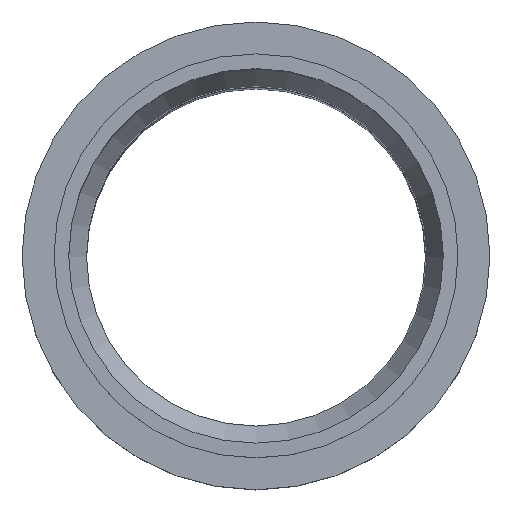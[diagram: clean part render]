
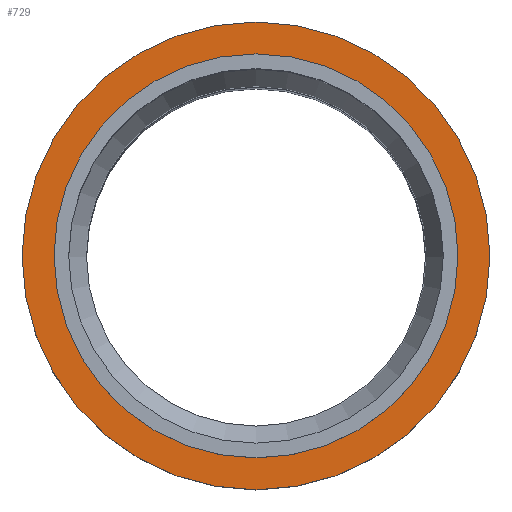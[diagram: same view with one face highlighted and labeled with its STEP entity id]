
A CAD part, top view. The second image highlights one B-rep face of the part: STEP entity #729.
In plain terms, the highlighted planar face has unit normal (0, 0, 1) as drawn and (1, 0, 0) by its records, which use the part's own axes.
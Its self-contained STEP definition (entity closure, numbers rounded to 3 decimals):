
#110=PLANE($,#811);
#138=FACE_BOUND($,#249,.T.);
#139=FACE_BOUND($,#250,.T.);
#249=EDGE_LOOP($,(#620));
#250=EDGE_LOOP($,(#621));
#299=CIRCLE($,#810,31.85);
#300=CIRCLE($,#812,27.5);
#370=VERTEX_POINT($,#1911);
#371=VERTEX_POINT($,#1914);
#457=EDGE_CURVE($,#370,#370,#299,.T.);
#458=EDGE_CURVE($,#371,#371,#300,.T.);
#620=ORIENTED_EDGE($,*,*,#458,.F.);
#621=ORIENTED_EDGE($,*,*,#457,.T.);
#729=ADVANCED_FACE($,(#138,#139),#110,.T.);
#810=AXIS2_PLACEMENT_3D($,#1912,#967,#968);
#811=AXIS2_PLACEMENT_3D($,#1913,#969,#970);
#812=AXIS2_PLACEMENT_3D($,#1915,#971,#972);
#967=DIRECTION('center_axis',(1.,0.,0.));
#968=DIRECTION('ref_axis',(0.,1.,0.));
#969=DIRECTION('center_axis',(1.,0.,0.));
#970=DIRECTION('ref_axis',(0.,0.,-1.));
#971=DIRECTION('center_axis',(1.,0.,0.));
#972=DIRECTION('ref_axis',(0.,1.,0.));
#1911=CARTESIAN_POINT('',(59.8,31.85,0.));
#1912=CARTESIAN_POINT('Origin',(59.8,0.,0.));
#1913=CARTESIAN_POINT('Origin',(59.8,29.675,0.));
#1914=CARTESIAN_POINT('',(59.8,27.5,0.));
#1915=CARTESIAN_POINT('Origin',(59.8,0.,0.));
